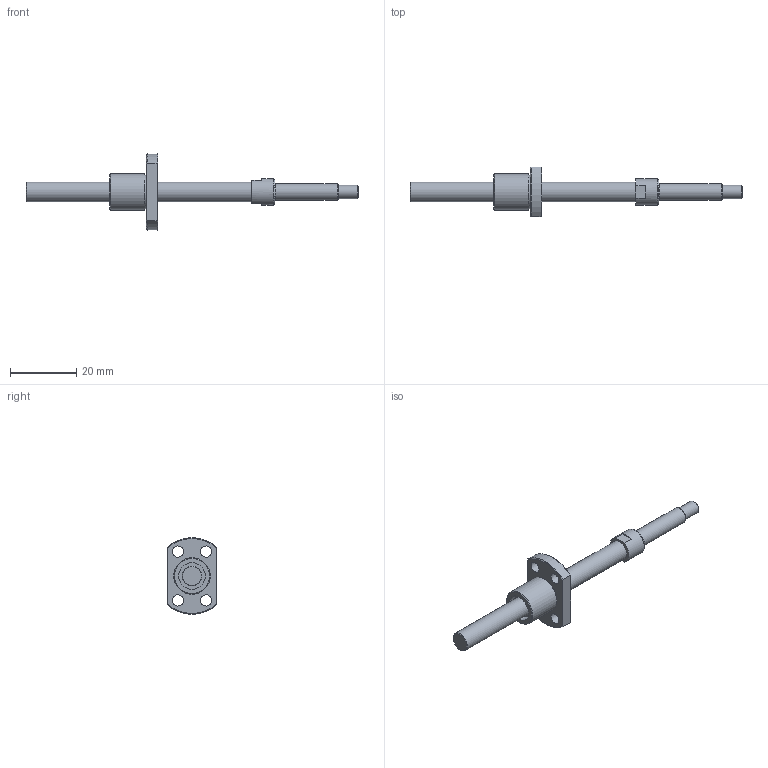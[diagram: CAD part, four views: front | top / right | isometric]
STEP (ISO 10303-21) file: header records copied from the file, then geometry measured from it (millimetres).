
FILE_DESCRIPTION(/* description */ ('STEP AP203'),/* implementation_level */ '2;1');
FILE_NAME(/* name */ 'BNK0601-3G0+100LC5Y(39.75)',/* time_stamp */ '2024-07-09T08:12:26+02:00',/* author */ ('License CC BY-ND 4.0'),/* organization */ ('CADENAS'),/* preprocessor_version */ 'ST-DEVELOPER v19.3',/* originating_system */ 'PARTsolutions',/* authorisation */ ' ');
FILE_SCHEMA (('CONFIG_CONTROL_DESIGN'));
Length unit declared in the file: millimetre
Products named in the file (3): BNK0601-3G0+100LC5Y(39.75); BNK 0601-3G0+100LC5Y Shaft; BNK 0601-3G0+100LC5Y Nut
Assembly tree (2 placements, depth 2):
  BNK0601-3G0+100LC5Y(39.75)
    BNK 0601-3G0+100LC5Y Shaft
    BNK 0601-3G0+100LC5Y Nut
Bounding box: 100 x 15 x 22.93 mm (x, y, z)
Volume: 4236.3 mm3; surface area: 3505.8 mm2
Topology: 2 solids, 2 shells, 42 faces, 87 edges, 56 vertices
Faces by surface type: plane 17, cylinder 15, cone 9, torus 1
Full cylindrical faces by diameter (mm): 3.4 x4, 4 x1, 5 x1, 6 x2, 8 x3, 10 x1, 11 x1
Entity records: 1125 total; most frequent: DIRECTION 192, CARTESIAN_POINT 191, ORIENTED_EDGE 134, AXIS2_PLACEMENT_3D 88, EDGE_LOOP 78, FACE_BOUND 78, EDGE_CURVE 67, VERTEX_POINT 55
